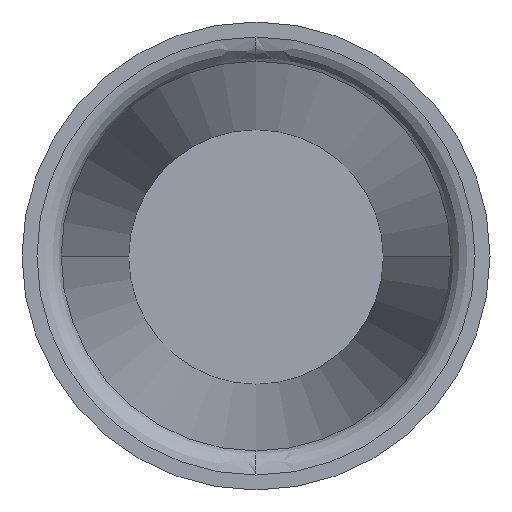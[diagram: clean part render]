
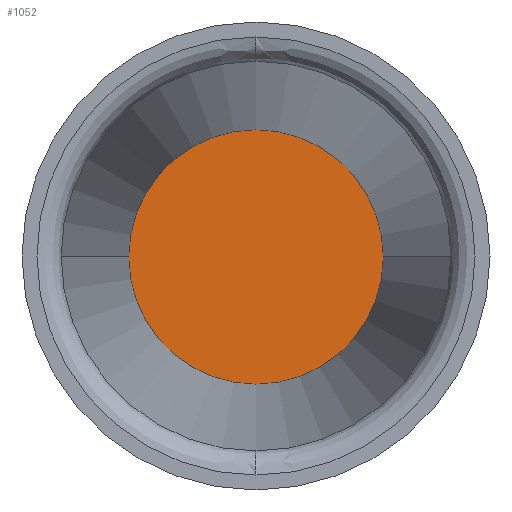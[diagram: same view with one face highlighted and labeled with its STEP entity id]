
A CAD part, top view. The second image highlights one B-rep face of the part: STEP entity #1052.
In plain terms, the highlighted planar face has unit normal (0, 0, 1) as drawn and (0, 1, 0) by its records, which use the part's own axes.
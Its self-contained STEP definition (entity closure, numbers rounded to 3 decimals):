
#1052=ADVANCED_FACE('',(#2143),#18206,.T.);
#2143=FACE_OUTER_BOUND('',#3233,.T.);
#3233=EDGE_LOOP('',(#9093,#9094));
#9093=ORIENTED_EDGE('',*,*,#12128,.T.);
#9094=ORIENTED_EDGE('',*,*,#12124,.T.);
#12124=EDGE_CURVE('',#17150,#17149,#12206,.T.);
#12128=EDGE_CURVE('',#17149,#17150,#12209,.T.);
#12206=TRIMMED_CURVE($,#12281,(#42163),(#42164),.T.,.CARTESIAN.);
#12209=TRIMMED_CURVE($,#12284,(#42174),(#42175),.T.,.CARTESIAN.);
#12281=CIRCLE('',#18874,52.298);
#12284=CIRCLE('',#18877,52.298);
#17149=VERTEX_POINT('',#29631);
#17150=VERTEX_POINT('',#29632);
#18206=PLANE('',#18813);
#18813=AXIS2_PLACEMENT_3D('',#27530,#19325,$);
#18874=AXIS2_PLACEMENT_3D($,#42162,#19444,#19445);
#18877=AXIS2_PLACEMENT_3D($,#42173,#19450,#19451);
#19325=DIRECTION('',(0.,1.,0.));
#19444=DIRECTION('',(0.,1.,0.));
#19445=DIRECTION('',(1.,0.,0.));
#19450=DIRECTION('',(0.,1.,0.));
#19451=DIRECTION('',(-1.,0.,0.));
#27530=CARTESIAN_POINT('',(-62.878,10.,-62.878));
#29631=CARTESIAN_POINT('',(-52.298,10.,0.));
#29632=CARTESIAN_POINT('',(52.298,10.,0.));
#42162=CARTESIAN_POINT('',(0.,10.,0.));
#42163=CARTESIAN_POINT('',(52.298,10.,0.));
#42164=CARTESIAN_POINT('',(-52.298,10.,0.));
#42173=CARTESIAN_POINT('',(0.,10.,0.));
#42174=CARTESIAN_POINT('',(-52.298,10.,0.));
#42175=CARTESIAN_POINT('',(52.298,10.,0.));
